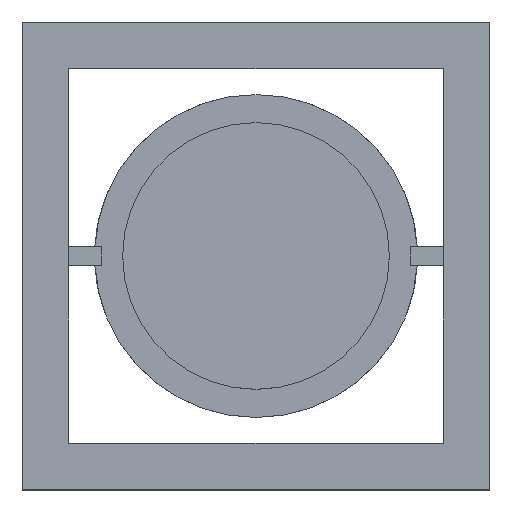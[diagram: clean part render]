
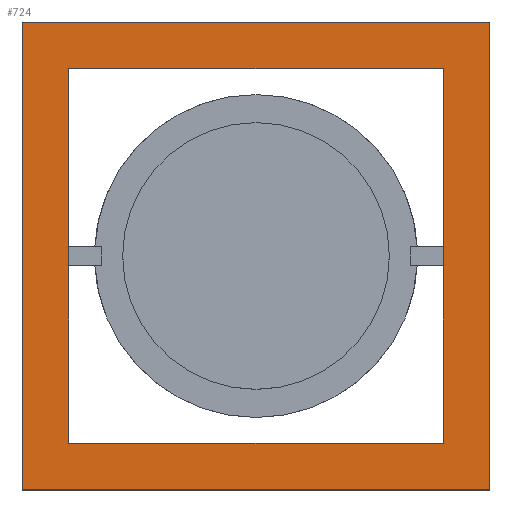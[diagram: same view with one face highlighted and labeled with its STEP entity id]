
A CAD part, top view. The second image highlights one B-rep face of the part: STEP entity #724.
In plain terms, the highlighted planar face has unit normal (0, 0, 1).
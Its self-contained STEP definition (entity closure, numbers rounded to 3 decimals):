
#448 = VERTEX_POINT('',#449);
#449 = CARTESIAN_POINT('',(18.,2.,2.6));
#464 = VERTEX_POINT('',#465);
#465 = CARTESIAN_POINT('',(18.,18.,2.6));
#471 = EDGE_CURVE('',#448,#464,#472,.T.);
#472 = LINE('',#473,#474);
#473 = CARTESIAN_POINT('',(18.,1.,2.6));
#474 = VECTOR('',#475,1.);
#475 = DIRECTION('',(-0.,1.,0.));
#587 = VERTEX_POINT('',#588);
#588 = CARTESIAN_POINT('',(2.,2.,2.6));
#603 = VERTEX_POINT('',#604);
#604 = CARTESIAN_POINT('',(2.,18.,2.6));
#610 = EDGE_CURVE('',#587,#603,#611,.T.);
#611 = LINE('',#612,#613);
#612 = CARTESIAN_POINT('',(2.,1.,2.6));
#613 = VECTOR('',#614,1.);
#614 = DIRECTION('',(-0.,1.,0.));
#663 = EDGE_CURVE('',#448,#587,#664,.T.);
#664 = LINE('',#665,#666);
#665 = CARTESIAN_POINT('',(1.,2.,2.6));
#666 = VECTOR('',#667,1.);
#667 = DIRECTION('',(-1.,-0.,0.));
#724 = ADVANCED_FACE('',(#725,#759),#770,.T.);
#725 = FACE_BOUND('',#726,.T.);
#726 = EDGE_LOOP('',(#727,#737,#745,#753));
#727 = ORIENTED_EDGE('',*,*,#728,.F.);
#728 = EDGE_CURVE('',#729,#731,#733,.T.);
#729 = VERTEX_POINT('',#730);
#730 = CARTESIAN_POINT('',(0.,0.,2.6));
#731 = VERTEX_POINT('',#732);
#732 = CARTESIAN_POINT('',(0.,20.,2.6));
#733 = LINE('',#734,#735);
#734 = CARTESIAN_POINT('',(0.,0.,2.6));
#735 = VECTOR('',#736,1.);
#736 = DIRECTION('',(-0.,1.,0.));
#737 = ORIENTED_EDGE('',*,*,#738,.T.);
#738 = EDGE_CURVE('',#729,#739,#741,.T.);
#739 = VERTEX_POINT('',#740);
#740 = CARTESIAN_POINT('',(20.,0.,2.6));
#741 = LINE('',#742,#743);
#742 = CARTESIAN_POINT('',(0.,0.,2.6));
#743 = VECTOR('',#744,1.);
#744 = DIRECTION('',(1.,0.,-0.));
#745 = ORIENTED_EDGE('',*,*,#746,.T.);
#746 = EDGE_CURVE('',#739,#747,#749,.T.);
#747 = VERTEX_POINT('',#748);
#748 = CARTESIAN_POINT('',(20.,20.,2.6));
#749 = LINE('',#750,#751);
#750 = CARTESIAN_POINT('',(20.,0.,2.6));
#751 = VECTOR('',#752,1.);
#752 = DIRECTION('',(-0.,1.,0.));
#753 = ORIENTED_EDGE('',*,*,#754,.F.);
#754 = EDGE_CURVE('',#731,#747,#755,.T.);
#755 = LINE('',#756,#757);
#756 = CARTESIAN_POINT('',(0.,20.,2.6));
#757 = VECTOR('',#758,1.);
#758 = DIRECTION('',(1.,0.,-0.));
#759 = FACE_BOUND('',#760,.T.);
#760 = EDGE_LOOP('',(#761,#762,#763,#769));
#761 = ORIENTED_EDGE('',*,*,#663,.T.);
#762 = ORIENTED_EDGE('',*,*,#610,.T.);
#763 = ORIENTED_EDGE('',*,*,#764,.F.);
#764 = EDGE_CURVE('',#464,#603,#765,.T.);
#765 = LINE('',#766,#767);
#766 = CARTESIAN_POINT('',(1.,18.,2.6));
#767 = VECTOR('',#768,1.);
#768 = DIRECTION('',(-1.,-0.,0.));
#769 = ORIENTED_EDGE('',*,*,#471,.F.);
#770 = PLANE('',#771);
#771 = AXIS2_PLACEMENT_3D('',#772,#773,#774);
#772 = CARTESIAN_POINT('',(0.,0.,2.6));
#773 = DIRECTION('',(0.,0.,1.));
#774 = DIRECTION('',(1.,0.,-0.));
